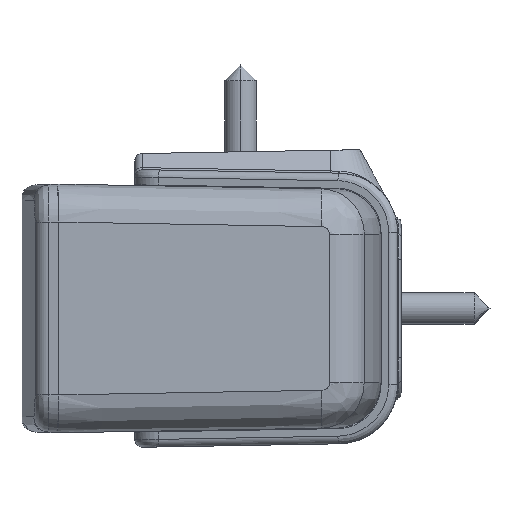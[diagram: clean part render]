
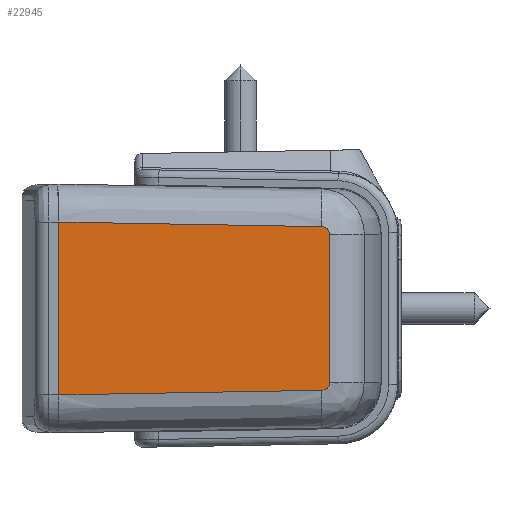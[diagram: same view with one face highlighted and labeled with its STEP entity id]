
A CAD part, left-side view. The second image highlights one B-rep face of the part: STEP entity #22945.
In plain terms, the highlighted planar face has unit normal (-1, -0.018, 0).
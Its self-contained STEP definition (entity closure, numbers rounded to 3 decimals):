
#99 = CARTESIAN_POINT ( 'NONE',  ( -72.627, -34.744, -9.788 ) ) ;
#262 = CARTESIAN_POINT ( 'NONE',  ( -72.646, -33.674, -10.791 ) ) ;
#506 = B_SPLINE_CURVE_WITH_KNOTS ( 'NONE', 3,
 ( #29065, #11992, #43017, #16477, #47507, #20940, #51929, #25423, #56414, #29862 ),
 .UNSPECIFIED., .F., .F.,
 ( 4, 2, 2, 2, 4 ),
 ( 0., 0., 0.001, 0.001, 0.002 ),
 .UNSPECIFIED. ) ;
#1640 = CARTESIAN_POINT ( 'NONE',  ( -72.646, -33.674, 10.791 ) ) ;
#1929 = ORIENTED_EDGE ( 'NONE', *, *, #16264, .F. ) ;
#2268 = CARTESIAN_POINT ( 'NONE',  ( -72.646, -33.674, -10.791 ) ) ;
#3072 = VERTEX_POINT ( 'NONE', #39573 ) ;
#4881 = CARTESIAN_POINT ( 'NONE',  ( -72.627, -34.744, 9.788 ) ) ;
#6838 = EDGE_CURVE ( 'NONE', #48045, #11893, #506, .T. ) ;
#7607 = LINE ( 'NONE', #49148, #31208 ) ;
#10460 = CARTESIAN_POINT ( 'NONE',  ( -72.808, -24.385, 10.954 ) ) ;
#10741 = CARTESIAN_POINT ( 'NONE',  ( -72.627, -34.744, -9.788 ) ) ;
#11893 = VERTEX_POINT ( 'NONE', #22177 ) ;
#11992 = CARTESIAN_POINT ( 'NONE',  ( -72.627, -34.744, 9.925 ) ) ;
#13202 = CARTESIAN_POINT ( 'NONE',  ( -72.641, -33.944, -10.764 ) ) ;
#13591 = ORIENTED_EDGE ( 'NONE', *, *, #6838, .T. ) ;
#14033 = ORIENTED_EDGE ( 'NONE', *, *, #36746, .T. ) ;
#14942 = CARTESIAN_POINT ( 'NONE',  ( -72.97, -15.096, 11.116 ) ) ;
#15394 = CARTESIAN_POINT ( 'NONE',  ( -73.171, -3.554, -11.317 ) ) ;
#16264 = EDGE_CURVE ( 'NONE', #3072, #35167, #7607, .T. ) ;
#16477 = CARTESIAN_POINT ( 'NONE',  ( -72.629, -34.6, 10.304 ) ) ;
#17683 = CARTESIAN_POINT ( 'NONE',  ( -72.634, -34.315, -10.597 ) ) ;
#18060 = CARTESIAN_POINT ( 'NONE',  ( -72.627, -34.744, 9.811 ) ) ;
#19395 = CARTESIAN_POINT ( 'NONE',  ( -73.132, -5.807, 11.278 ) ) ;
#19853 = CARTESIAN_POINT ( 'NONE',  ( -73.051, -10.451, -11.197 ) ) ;
#20615 = AXIS2_PLACEMENT_3D ( 'NONE', #46492, #50952, #24424 ) ;
#20940 = CARTESIAN_POINT ( 'NONE',  ( -72.634, -34.316, 10.596 ) ) ;
#22157 = CARTESIAN_POINT ( 'NONE',  ( -72.629, -34.6, -10.306 ) ) ;
#22175 = VERTEX_POINT ( 'NONE', #10741 ) ;
#22177 = CARTESIAN_POINT ( 'NONE',  ( -72.646, -33.674, 10.791 ) ) ;
#22813 = ORIENTED_EDGE ( 'NONE', *, *, #35571, .T. ) ;
#22945 = ADVANCED_FACE ( 'NONE', ( #50858 ), #46113, .T. ) ;
#23117 = B_SPLINE_CURVE_WITH_KNOTS ( 'NONE', 3,
 ( #55139, #50490, #15394, #46385, #19853, #50847, #24321, #55326, #28777, #2268 ),
 .UNSPECIFIED., .F., .F.,
 ( 4, 3, 3, 4 ),
 ( 0., 0.007, 0.021, 0.035 ),
 .UNSPECIFIED. ) ;
#23223 = B_SPLINE_CURVE_WITH_KNOTS ( 'NONE', 3,
 ( #1640, #37057, #10460, #41502, #14942, #45939, #19395, #50424, #23875, #54858 ),
 .UNSPECIFIED., .F., .F.,
 ( 4, 3, 3, 4 ),
 ( 0., 0.014, 0.028, 0.035 ),
 .UNSPECIFIED. ) ;
#23875 = CARTESIAN_POINT ( 'NONE',  ( -73.211, -1.302, 11.357 ) ) ;
#24321 = CARTESIAN_POINT ( 'NONE',  ( -72.889, -19.74, -11.035 ) ) ;
#24424 = DIRECTION ( 'NONE',  ( 0.017, -1., 0. ) ) ;
#25423 = CARTESIAN_POINT ( 'NONE',  ( -72.641, -33.946, 10.763 ) ) ;
#26617 = CARTESIAN_POINT ( 'NONE',  ( -72.627, -34.744, -9.925 ) ) ;
#28777 = CARTESIAN_POINT ( 'NONE',  ( -72.727, -29.03, -10.872 ) ) ;
#29065 = CARTESIAN_POINT ( 'NONE',  ( -72.627, -34.744, 9.788 ) ) ;
#29862 = CARTESIAN_POINT ( 'NONE',  ( -72.646, -33.674, 10.791 ) ) ;
#30527 = ORIENTED_EDGE ( 'NONE', *, *, #32768, .T. ) ;
#31208 = VECTOR ( 'NONE', #31517, 1000. ) ;
#31517 = DIRECTION ( 'NONE',  ( 0., 0., 1. ) ) ;
#31623 = ORIENTED_EDGE ( 'NONE', *, *, #41829, .T. ) ;
#32768 = EDGE_CURVE ( 'NONE', #22175, #48045, #41005, .T. ) ;
#35167 = VERTEX_POINT ( 'NONE', #45409 ) ;
#35354 = CARTESIAN_POINT ( 'NONE',  ( -72.646, -33.674, -10.791 ) ) ;
#35571 = EDGE_CURVE ( 'NONE', #11893, #35167, #23223, .T. ) ;
#36746 = EDGE_CURVE ( 'NONE', #57483, #22175, #41927, .T. ) ;
#37057 = CARTESIAN_POINT ( 'NONE',  ( -72.727, -29.03, 10.872 ) ) ;
#39573 = CARTESIAN_POINT ( 'NONE',  ( -73.25, 0.95, -11.396 ) ) ;
#39780 = CARTESIAN_POINT ( 'NONE',  ( -72.643, -33.811, -10.789 ) ) ;
#41005 = LINE ( 'NONE', #18060, #51384 ) ;
#41502 = CARTESIAN_POINT ( 'NONE',  ( -72.889, -19.74, 11.035 ) ) ;
#41829 = EDGE_CURVE ( 'NONE', #3072, #57483, #23117, .T. ) ;
#41927 = B_SPLINE_CURVE_WITH_KNOTS ( 'NONE', 3,
 ( #35354, #39780, #13202, #44222, #17683, #48719, #22157, #53152, #26617, #99 ),
 .UNSPECIFIED., .F., .F.,
 ( 4, 2, 2, 2, 4 ),
 ( 0., 0., 0.001, 0.001, 0.002 ),
 .UNSPECIFIED. ) ;
#43017 = CARTESIAN_POINT ( 'NONE',  ( -72.627, -34.714, 10.059 ) ) ;
#44222 = CARTESIAN_POINT ( 'NONE',  ( -72.636, -34.198, -10.667 ) ) ;
#45409 = CARTESIAN_POINT ( 'NONE',  ( -73.25, 0.95, 11.396 ) ) ;
#45939 = CARTESIAN_POINT ( 'NONE',  ( -73.051, -10.451, 11.197 ) ) ;
#46113 = PLANE ( 'NONE',  #20615 ) ;
#46385 = CARTESIAN_POINT ( 'NONE',  ( -73.132, -5.807, -11.278 ) ) ;
#46492 = CARTESIAN_POINT ( 'NONE',  ( -73.25, 0.95, 202.084 ) ) ;
#47507 = CARTESIAN_POINT ( 'NONE',  ( -72.631, -34.517, 10.415 ) ) ;
#48045 = VERTEX_POINT ( 'NONE', #4881 ) ;
#48719 = CARTESIAN_POINT ( 'NONE',  ( -72.631, -34.517, -10.415 ) ) ;
#48997 = EDGE_LOOP ( 'NONE', ( #1929, #31623, #14033, #30527, #13591, #22813 ) ) ;
#49148 = CARTESIAN_POINT ( 'NONE',  ( -73.25, 0.95, 202.084 ) ) ;
#49295 = DIRECTION ( 'NONE',  ( 0., 0., 1. ) ) ;
#50424 = CARTESIAN_POINT ( 'NONE',  ( -73.171, -3.554, 11.317 ) ) ;
#50490 = CARTESIAN_POINT ( 'NONE',  ( -73.211, -1.302, -11.357 ) ) ;
#50847 = CARTESIAN_POINT ( 'NONE',  ( -72.97, -15.096, -11.116 ) ) ;
#50858 = FACE_OUTER_BOUND ( 'NONE', #48997, .T. ) ;
#50952 = DIRECTION ( 'NONE',  ( -1., -0.017, 0. ) ) ;
#51384 = VECTOR ( 'NONE', #49295, 1000. ) ;
#51929 = CARTESIAN_POINT ( 'NONE',  ( -72.636, -34.198, 10.667 ) ) ;
#53152 = CARTESIAN_POINT ( 'NONE',  ( -72.627, -34.714, -10.059 ) ) ;
#54858 = CARTESIAN_POINT ( 'NONE',  ( -73.25, 0.95, 11.396 ) ) ;
#55139 = CARTESIAN_POINT ( 'NONE',  ( -73.25, 0.95, -11.396 ) ) ;
#55326 = CARTESIAN_POINT ( 'NONE',  ( -72.808, -24.385, -10.954 ) ) ;
#56414 = CARTESIAN_POINT ( 'NONE',  ( -72.643, -33.811, 10.789 ) ) ;
#57483 = VERTEX_POINT ( 'NONE', #262 ) ;
